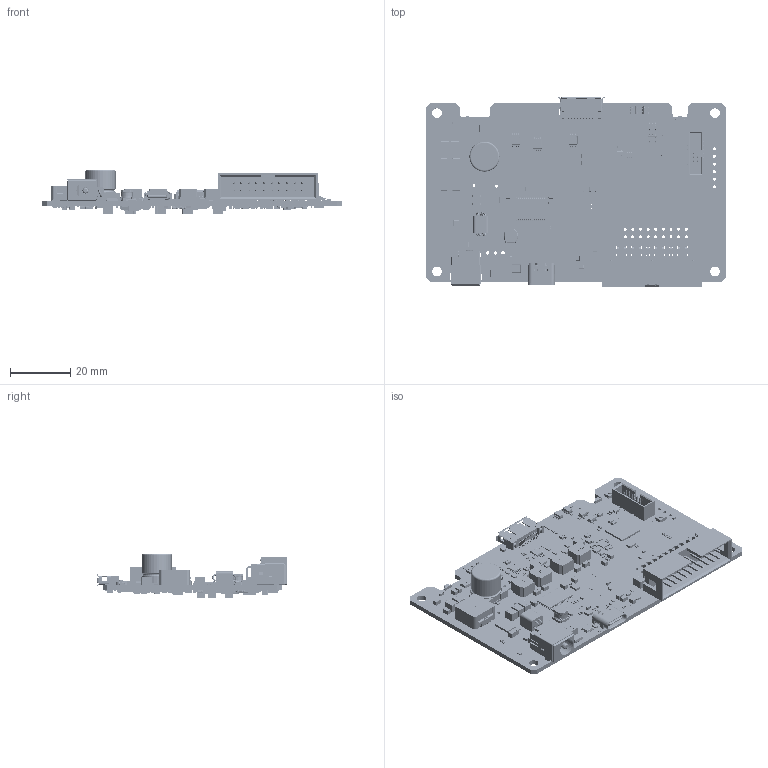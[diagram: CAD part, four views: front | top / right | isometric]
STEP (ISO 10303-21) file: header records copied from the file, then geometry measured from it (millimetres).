
FILE_DESCRIPTION (( 'STEP AP214' ), '1' );
FILE_NAME ('181-479-00.STEP', '2026-03-23T09:57:49', ( '' ), ( '' ), 'SwSTEP 2.0', 'SolidWorks 2024', '' );
FILE_SCHEMA (( 'AUTOMOTIVE_DESIGN' ));
Products named in the file (1): 181-479-00
Bounding box: 99.5 x 63.32 x 14.97 mm (x, y, z)
Surface area: 23173.4 mm2 (no closed solid volume)
Topology: 0 solids, 3548 shells, 13693 faces, 61645 edges, 49984 vertices
Faces by surface type: plane 9616, cylinder 2789, bspline 681, sphere 560, cone 25, torus 22
Full cylindrical faces by diameter (mm): 0.3 x26, 0.35 x4, 0.5 x7, 0.65 x2, 0.75 x2, 0.85 x6, 0.95 x2, 1 x38, 1.1 x18, 1.2 x32, 1.5 x1, 3.2 x4
Entity records: 739399 total; most frequent: CARTESIAN_POINT 282448, DIRECTION 83797, ORIENTED_EDGE 76497, EDGE_CURVE 60868, VERTEX_POINT 49929, VECTOR 44925, LINE 44925, AXIS2_PLACEMENT_3D 19436
